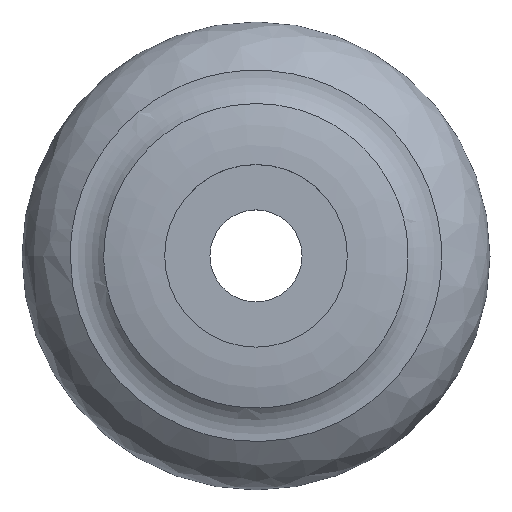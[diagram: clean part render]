
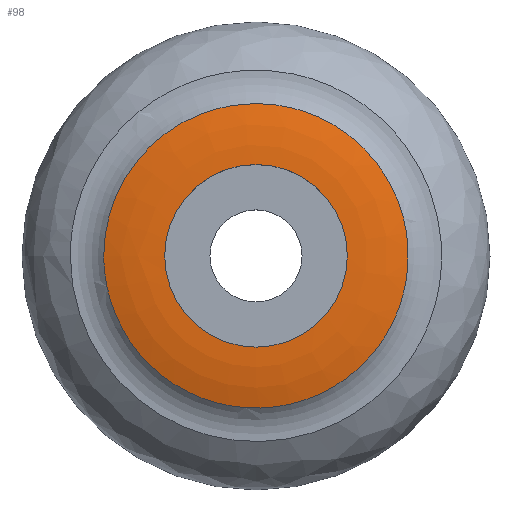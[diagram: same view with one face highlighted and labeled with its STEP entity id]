
A CAD part, top view. The second image highlights one B-rep face of the part: STEP entity #98.
In plain terms, the highlighted free-form (B-spline) face has degree [3, 3] with [4, 17] control points.
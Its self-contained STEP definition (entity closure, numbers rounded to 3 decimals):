
#25=B_SPLINE_SURFACE_WITH_KNOTS('',3,3,((#252,#253,#254,#255,#256,#257,
#258,#259,#260,#261,#262,#263,#264,#265,#266,#267,#268),(#269,#270,#271,
#272,#273,#274,#275,#276,#277,#278,#279,#280,#281,#282,#283,#284,#285),
(#286,#287,#288,#289,#290,#291,#292,#293,#294,#295,#296,#297,#298,#299,
#300,#301,#302),(#303,#304,#305,#306,#307,#308,#309,#310,#311,#312,#313,
#314,#315,#316,#317,#318,#319)),.UNSPECIFIED.,.F.,.T.,.F.,(4,4),(4,1,1,
1,1,1,1,1,1,1,1,1,1,1,4),(0.,0.29),(-3.142,-2.693,
-2.244,-1.795,-1.346,-0.748,
-0.449,0.15,0.449,1.047,
1.346,1.945,2.244,2.693,3.142),
 .UNSPECIFIED.);
#28=FACE_OUTER_BOUND('',#35,.T.);
#35=EDGE_LOOP('',(#76,#77,#78,#79));
#44=CIRCLE('',#120,6.05);
#49=B_SPLINE_CURVE_WITH_KNOTS('',3,(#158,#159,#160,#161,#162,#163,#164,
#165,#166,#167,#168,#169,#170,#171,#172,#173,#174,#175,#176,#177,#178,#179,
#180,#181,#182,#183,#184,#185,#186,#187,#188,#189,#190,#191,#192,#193,#194,
#195,#196,#197,#198,#199,#200),.UNSPECIFIED.,.T.,.F.,(4,3,3,3,3,3,3,3,3,
3,3,3,3,3,4),(-0.519,-0.066,0.388,0.691,
1.296,1.598,2.204,2.506,3.111,
3.414,4.019,4.473,4.927,5.38,
5.834),.UNSPECIFIED.);
#51=B_SPLINE_CURVE_WITH_KNOTS('',3,(#321,#322,#323,#324),.UNSPECIFIED.,
 .F.,.F.,(4,4),(0.,0.29),.UNSPECIFIED.);
#53=VERTEX_POINT('',#157);
#55=VERTEX_POINT('',#320);
#60=EDGE_CURVE('',#53,#53,#49,.F.);
#63=EDGE_CURVE('',#55,#53,#51,.T.);
#64=EDGE_CURVE('',#55,#55,#44,.T.);
#76=ORIENTED_EDGE('',*,*,#60,.T.);
#77=ORIENTED_EDGE('',*,*,#63,.F.);
#78=ORIENTED_EDGE('',*,*,#64,.T.);
#79=ORIENTED_EDGE('',*,*,#63,.T.);
#98=ADVANCED_FACE('',(#28),#25,.T.);
#120=AXIS2_PLACEMENT_3D('',#325,#135,#136);
#135=DIRECTION('center_axis',(0.,0.,-1.));
#136=DIRECTION('ref_axis',(1.,0.,0.));
#157=CARTESIAN_POINT('',(154.918,0.,5.426));
#158=CARTESIAN_POINT('Ctrl Pts',(154.918,0.,
5.426));
#159=CARTESIAN_POINT('Ctrl Pts',(154.918,1.508,5.426));
#160=CARTESIAN_POINT('Ctrl Pts',(155.262,3.017,5.426));
#161=CARTESIAN_POINT('Ctrl Pts',(155.916,4.375,5.426));
#162=CARTESIAN_POINT('Ctrl Pts',(156.57,5.733,5.426));
#163=CARTESIAN_POINT('Ctrl Pts',(157.535,6.94,5.426));
#164=CARTESIAN_POINT('Ctrl Pts',(158.714,7.882,5.426));
#165=CARTESIAN_POINT('Ctrl Pts',(159.5,8.509,5.426));
#166=CARTESIAN_POINT('Ctrl Pts',(160.381,9.019,5.426));
#167=CARTESIAN_POINT('Ctrl Pts',(161.317,9.385,5.426));
#168=CARTESIAN_POINT('Ctrl Pts',(163.189,10.118,5.426));
#169=CARTESIAN_POINT('Ctrl Pts',(165.281,10.275,5.426));
#170=CARTESIAN_POINT('Ctrl Pts',(167.243,9.832,5.426));
#171=CARTESIAN_POINT('Ctrl Pts',(168.224,9.61,5.426));
#172=CARTESIAN_POINT('Ctrl Pts',(169.172,9.238,5.426));
#173=CARTESIAN_POINT('Ctrl Pts',(170.042,8.733,5.426));
#174=CARTESIAN_POINT('Ctrl Pts',(171.782,7.724,5.426));
#175=CARTESIAN_POINT('Ctrl Pts',(173.208,6.187,5.426));
#176=CARTESIAN_POINT('Ctrl Pts',(174.084,4.376,5.426));
#177=CARTESIAN_POINT('Ctrl Pts',(174.521,3.471,5.426));
#178=CARTESIAN_POINT('Ctrl Pts',(174.822,2.497,5.426));
#179=CARTESIAN_POINT('Ctrl Pts',(174.97,1.503,5.426));
#180=CARTESIAN_POINT('Ctrl Pts',(175.266,-0.487,5.426));
#181=CARTESIAN_POINT('Ctrl Pts',(174.955,-2.56,5.426));
#182=CARTESIAN_POINT('Ctrl Pts',(174.087,-4.374,5.426));
#183=CARTESIAN_POINT('Ctrl Pts',(173.652,-5.281,5.426));
#184=CARTESIAN_POINT('Ctrl Pts',(173.078,-6.123,5.426));
#185=CARTESIAN_POINT('Ctrl Pts',(172.393,-6.859,5.426));
#186=CARTESIAN_POINT('Ctrl Pts',(171.022,-8.332,5.426));
#187=CARTESIAN_POINT('Ctrl Pts',(169.204,-9.382,5.426));
#188=CARTESIAN_POINT('Ctrl Pts',(167.245,-9.831,5.426));
#189=CARTESIAN_POINT('Ctrl Pts',(165.776,-10.167,5.426));
#190=CARTESIAN_POINT('Ctrl Pts',(164.227,-10.165,5.426));
#191=CARTESIAN_POINT('Ctrl Pts',(162.756,-9.829,5.426));
#192=CARTESIAN_POINT('Ctrl Pts',(161.286,-9.493,5.426));
#193=CARTESIAN_POINT('Ctrl Pts',(159.893,-8.823,5.426));
#194=CARTESIAN_POINT('Ctrl Pts',(158.714,-7.883,5.426));
#195=CARTESIAN_POINT('Ctrl Pts',(157.536,-6.943,5.426));
#196=CARTESIAN_POINT('Ctrl Pts',(156.571,-5.733,5.426));
#197=CARTESIAN_POINT('Ctrl Pts',(155.916,-4.374,5.426));
#198=CARTESIAN_POINT('Ctrl Pts',(155.262,-3.016,5.426));
#199=CARTESIAN_POINT('Ctrl Pts',(154.918,-1.508,5.426));
#200=CARTESIAN_POINT('Ctrl Pts',(154.918,0.,
5.426));
#252=CARTESIAN_POINT('Ctrl Pts',(158.95,0.,6.));
#253=CARTESIAN_POINT('Ctrl Pts',(158.95,-0.905,6.));
#254=CARTESIAN_POINT('Ctrl Pts',(159.363,-2.714,6.));
#255=CARTESIAN_POINT('Ctrl Pts',(161.1,-4.892,6.));
#256=CARTESIAN_POINT('Ctrl Pts',(163.607,-6.098,6.));
#257=CARTESIAN_POINT('Ctrl Pts',(166.705,-6.103,6.));
#258=CARTESIAN_POINT('Ctrl Pts',(169.159,-4.684,6.));
#259=CARTESIAN_POINT('Ctrl Pts',(170.881,-2.159,6.));
#260=CARTESIAN_POINT('Ctrl Pts',(171.254,0.33,6.));
#261=CARTESIAN_POINT('Ctrl Pts',(170.354,3.251,6.));
#262=CARTESIAN_POINT('Ctrl Pts',(168.642,5.097,6.));
#263=CARTESIAN_POINT('Ctrl Pts',(165.796,6.213,6.));
#264=CARTESIAN_POINT('Ctrl Pts',(163.285,6.024,6.));
#265=CARTESIAN_POINT('Ctrl Pts',(160.906,4.647,6.));
#266=CARTESIAN_POINT('Ctrl Pts',(159.363,2.716,6.));
#267=CARTESIAN_POINT('Ctrl Pts',(158.95,0.905,6.));
#268=CARTESIAN_POINT('Ctrl Pts',(158.95,0.,6.));
#269=CARTESIAN_POINT('Ctrl Pts',(157.658,0.,
6.));
#270=CARTESIAN_POINT('Ctrl Pts',(157.658,-1.098,6.));
#271=CARTESIAN_POINT('Ctrl Pts',(158.159,-3.294,6.));
#272=CARTESIAN_POINT('Ctrl Pts',(160.267,-5.936,6.));
#273=CARTESIAN_POINT('Ctrl Pts',(163.31,-7.4,6.));
#274=CARTESIAN_POINT('Ctrl Pts',(167.068,-7.405,6.));
#275=CARTESIAN_POINT('Ctrl Pts',(170.046,-5.684,6.));
#276=CARTESIAN_POINT('Ctrl Pts',(172.136,-2.619,6.));
#277=CARTESIAN_POINT('Ctrl Pts',(172.588,0.401,6.));
#278=CARTESIAN_POINT('Ctrl Pts',(171.496,3.945,6.));
#279=CARTESIAN_POINT('Ctrl Pts',(169.419,6.184,6.));
#280=CARTESIAN_POINT('Ctrl Pts',(165.966,7.539,6.));
#281=CARTESIAN_POINT('Ctrl Pts',(162.919,7.31,6.));
#282=CARTESIAN_POINT('Ctrl Pts',(160.033,5.639,6.));
#283=CARTESIAN_POINT('Ctrl Pts',(158.16,3.296,6.));
#284=CARTESIAN_POINT('Ctrl Pts',(157.658,1.098,6.));
#285=CARTESIAN_POINT('Ctrl Pts',(157.658,0.,
6.));
#286=CARTESIAN_POINT('Ctrl Pts',(156.246,0.,
5.824));
#287=CARTESIAN_POINT('Ctrl Pts',(156.246,-1.309,5.824));
#288=CARTESIAN_POINT('Ctrl Pts',(156.844,-3.927,5.824));
#289=CARTESIAN_POINT('Ctrl Pts',(159.357,-7.078,5.824));
#290=CARTESIAN_POINT('Ctrl Pts',(162.984,-8.823,5.824));
#291=CARTESIAN_POINT('Ctrl Pts',(167.466,-8.83,5.824));
#292=CARTESIAN_POINT('Ctrl Pts',(171.017,-6.778,5.824));
#293=CARTESIAN_POINT('Ctrl Pts',(173.508,-3.123,5.824));
#294=CARTESIAN_POINT('Ctrl Pts',(174.048,0.478,5.824));
#295=CARTESIAN_POINT('Ctrl Pts',(172.746,4.704,5.824));
#296=CARTESIAN_POINT('Ctrl Pts',(170.269,7.374,5.824));
#297=CARTESIAN_POINT('Ctrl Pts',(166.152,8.989,5.824));
#298=CARTESIAN_POINT('Ctrl Pts',(162.519,8.716,5.824));
#299=CARTESIAN_POINT('Ctrl Pts',(159.077,6.724,5.824));
#300=CARTESIAN_POINT('Ctrl Pts',(156.844,3.929,5.824));
#301=CARTESIAN_POINT('Ctrl Pts',(156.246,1.309,5.824));
#302=CARTESIAN_POINT('Ctrl Pts',(156.246,0.,5.824));
#303=CARTESIAN_POINT('Ctrl Pts',(154.918,0.,
5.426));
#304=CARTESIAN_POINT('Ctrl Pts',(154.918,-1.508,5.426));
#305=CARTESIAN_POINT('Ctrl Pts',(155.606,-4.523,5.426));
#306=CARTESIAN_POINT('Ctrl Pts',(158.501,-8.153,5.426));
#307=CARTESIAN_POINT('Ctrl Pts',(162.678,-10.163,5.426));
#308=CARTESIAN_POINT('Ctrl Pts',(167.841,-10.17,5.426));
#309=CARTESIAN_POINT('Ctrl Pts',(171.93,-7.806,5.426));
#310=CARTESIAN_POINT('Ctrl Pts',(174.8,-3.597,5.426));
#311=CARTESIAN_POINT('Ctrl Pts',(175.422,0.55,5.426));
#312=CARTESIAN_POINT('Ctrl Pts',(173.921,5.418,5.426));
#313=CARTESIAN_POINT('Ctrl Pts',(171.069,8.493,5.426));
#314=CARTESIAN_POINT('Ctrl Pts',(166.327,10.354,5.426));
#315=CARTESIAN_POINT('Ctrl Pts',(162.143,10.039,5.426));
#316=CARTESIAN_POINT('Ctrl Pts',(158.178,7.745,5.426));
#317=CARTESIAN_POINT('Ctrl Pts',(155.606,4.526,5.426));
#318=CARTESIAN_POINT('Ctrl Pts',(154.918,1.508,5.426));
#319=CARTESIAN_POINT('Ctrl Pts',(154.918,0.,
5.426));
#320=CARTESIAN_POINT('',(158.95,0.,6.));
#321=CARTESIAN_POINT('Ctrl Pts',(158.95,0.,6.));
#322=CARTESIAN_POINT('Ctrl Pts',(157.658,0.,
6.));
#323=CARTESIAN_POINT('Ctrl Pts',(156.246,0.,
5.824));
#324=CARTESIAN_POINT('Ctrl Pts',(154.918,0.,
5.426));
#325=CARTESIAN_POINT('Origin',(165.,0.,6.));
